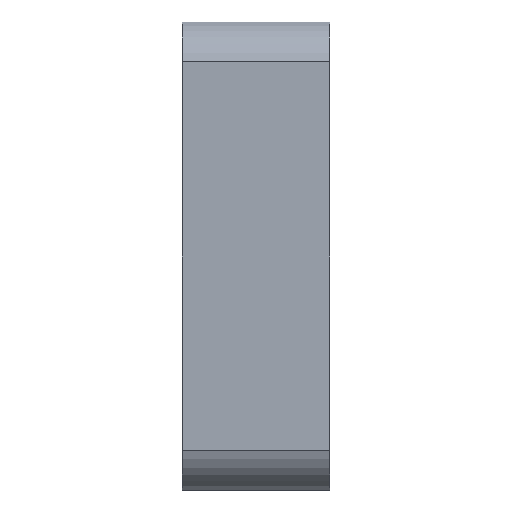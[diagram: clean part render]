
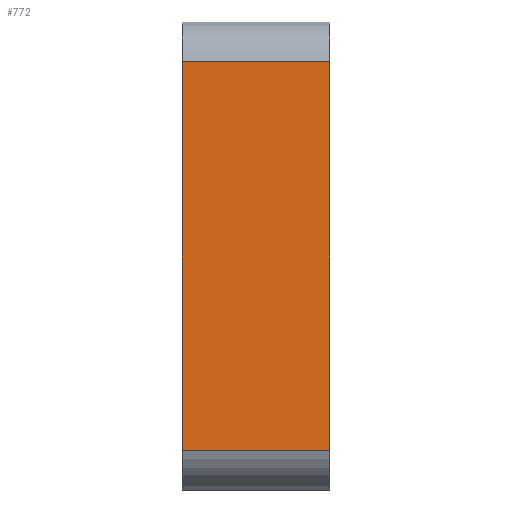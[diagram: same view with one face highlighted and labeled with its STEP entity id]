
A CAD part, left-side view. The second image highlights one B-rep face of the part: STEP entity #772.
In plain terms, the highlighted planar face has unit normal (-1, 0, 0).
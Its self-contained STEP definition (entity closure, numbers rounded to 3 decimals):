
#3 = ORIENTED_EDGE ( 'NONE', *, *, #95, .T. ) ;
#7 = VECTOR ( 'NONE', #1039, 1000. ) ;
#14 = DIRECTION ( 'NONE',  ( 0., 0., 1. ) ) ;
#95 = EDGE_CURVE ( 'NONE', #1606, #1214, #1284, .T. ) ;
#96 = ORIENTED_EDGE ( 'NONE', *, *, #116, .T. ) ;
#116 = EDGE_CURVE ( 'NONE', #1478, #415, #1417, .T. ) ;
#118 = CARTESIAN_POINT ( 'NONE',  ( -16.5, 22.5, 4.093 ) ) ;
#128 = CARTESIAN_POINT ( 'NONE',  ( -16.5, 22.5, -105.907 ) ) ;
#146 = DIRECTION ( 'NONE',  ( 0., 0., -1. ) ) ;
#265 = DIRECTION ( 'NONE',  ( 0., -1., 0. ) ) ;
#269 = LINE ( 'NONE', #128, #1497 ) ;
#415 = VERTEX_POINT ( 'NONE', #727 ) ;
#525 = ORIENTED_EDGE ( 'NONE', *, *, #1424, .T. ) ;
#664 = CARTESIAN_POINT ( 'NONE',  ( -16.5, -22.5, -105.907 ) ) ;
#702 = EDGE_LOOP ( 'NONE', ( #525, #96, #821, #3 ) ) ;
#709 = EDGE_CURVE ( 'NONE', #1606, #415, #269, .T. ) ;
#727 = CARTESIAN_POINT ( 'NONE',  ( -16.5, 22.5, 4.093 ) ) ;
#772 = ADVANCED_FACE ( 'NONE', ( #1400 ), #912, .F. ) ;
#788 = CARTESIAN_POINT ( 'NONE',  ( -16.5, 22.5, -105.907 ) ) ;
#821 = ORIENTED_EDGE ( 'NONE', *, *, #709, .F. ) ;
#862 = VECTOR ( 'NONE', #1320, 1000. ) ;
#912 = PLANE ( 'NONE',  #1159 ) ;
#1039 = DIRECTION ( 'NONE',  ( 0., 1., 0. ) ) ;
#1159 = AXIS2_PLACEMENT_3D ( 'NONE', #788, #1684, #146 ) ;
#1170 = LINE ( 'NONE', #664, #862 ) ;
#1180 = CARTESIAN_POINT ( 'NONE',  ( -16.5, 22.5, -114.093 ) ) ;
#1214 = VERTEX_POINT ( 'NONE', #1474 ) ;
#1284 = LINE ( 'NONE', #1180, #1477 ) ;
#1320 = DIRECTION ( 'NONE',  ( 0., 0., 1. ) ) ;
#1400 = FACE_OUTER_BOUND ( 'NONE', #702, .T. ) ;
#1417 = LINE ( 'NONE', #118, #7 ) ;
#1424 = EDGE_CURVE ( 'NONE', #1214, #1478, #1170, .T. ) ;
#1474 = CARTESIAN_POINT ( 'NONE',  ( -16.5, -22.5, -114.093 ) ) ;
#1477 = VECTOR ( 'NONE', #265, 1000. ) ;
#1478 = VERTEX_POINT ( 'NONE', #1585 ) ;
#1497 = VECTOR ( 'NONE', #14, 1000. ) ;
#1573 = CARTESIAN_POINT ( 'NONE',  ( -16.5, 22.5, -114.093 ) ) ;
#1585 = CARTESIAN_POINT ( 'NONE',  ( -16.5, -22.5, 4.093 ) ) ;
#1606 = VERTEX_POINT ( 'NONE', #1573 ) ;
#1684 = DIRECTION ( 'NONE',  ( 1., 0., 0. ) ) ;
